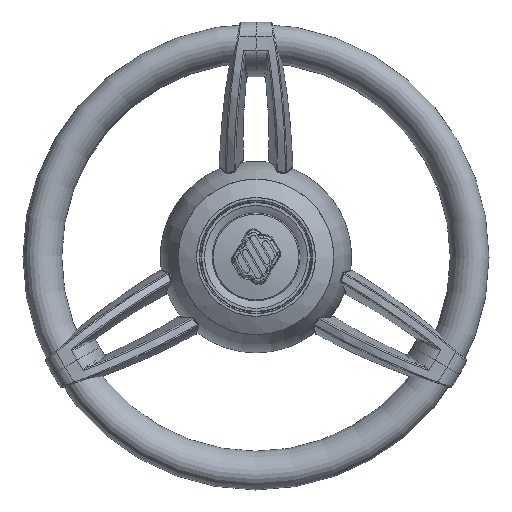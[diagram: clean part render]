
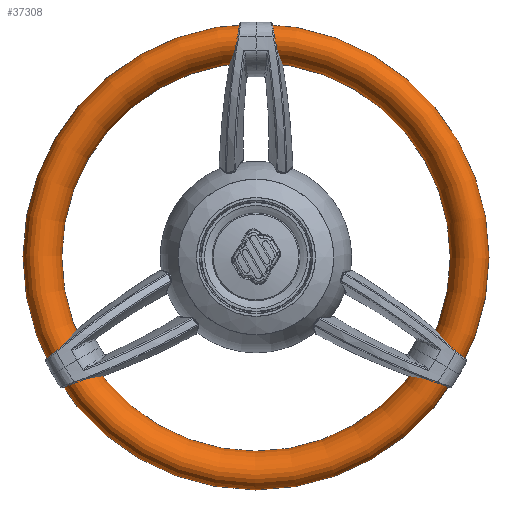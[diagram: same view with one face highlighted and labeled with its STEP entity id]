
A CAD part, top view. The second image highlights one B-rep face of the part: STEP entity #37308.
In plain terms, the highlighted face is a revolution surface.
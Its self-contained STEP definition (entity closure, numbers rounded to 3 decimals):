
#37279=CARTESIAN_POINT('',(-160.827,0.0,0.0));
#37280=DIRECTION('',(0.0,0.0,1.0));
#37281=DIRECTION('',(-0.342,0.94,0.0));
#37282=AXIS2_PLACEMENT_3D('',#37279,#37280,#37281);
#37283=ELLIPSE('',#37282,19.,14.);
#37284=CARTESIAN_POINT('',(0.0,-17.891,0.0));
#37285=DIRECTION('',(0.0,-1.0,0.0));
#37286=AXIS1_PLACEMENT('',#37284,#37285);
#37287=SURFACE_OF_REVOLUTION('',#37283,#37286);
#37288=CARTESIAN_POINT('',(-154.328,-17.854,0.0));
#37289=VERTEX_POINT('',#37288);
#37290=CARTESIAN_POINT('',(-160.827,0.0,0.0));
#37291=DIRECTION('',(0.0,0.0,-1.0));
#37292=DIRECTION('',(-0.342,0.94,0.0));
#37293=AXIS2_PLACEMENT_3D('',#37290,#37291,#37292);
#37294=ELLIPSE('',#37293,19.,14.);
#37295=EDGE_CURVE('',#37289,#37289,#37294,.T.);
#37296=ORIENTED_EDGE('',*,*,#37295,.T.);
#37297=CARTESIAN_POINT('',(0.0,-17.854,0.0));
#37298=DIRECTION('',(0.0,1.0,0.0));
#37299=DIRECTION('',(-1.0,0.0,0.0));
#37300=AXIS2_PLACEMENT_3D('',#37297,#37298,#37299);
#37301=CIRCLE('',#37300,154.328);
#37302=EDGE_CURVE('',#37289,#37289,#37301,.T.);
#37303=ORIENTED_EDGE('',*,*,#37302,.F.);
#37304=ORIENTED_EDGE('',*,*,#37295,.F.);
#37305=ORIENTED_EDGE('',*,*,#37302,.T.);
#37306=EDGE_LOOP('',(#37296,#37303,#37304,#37305));
#37307=FACE_OUTER_BOUND('',#37306,.T.);
#37308=ADVANCED_FACE('',(#37307),#37287,.T.);
